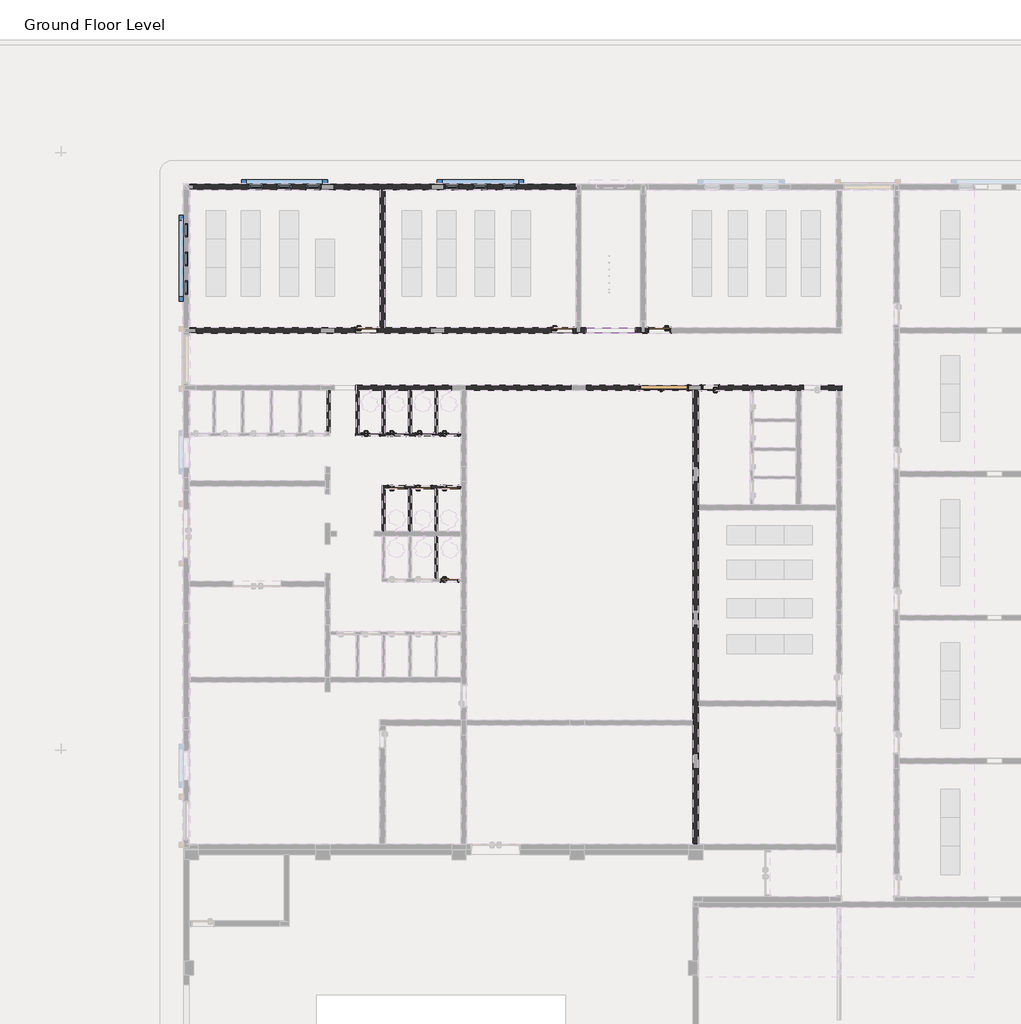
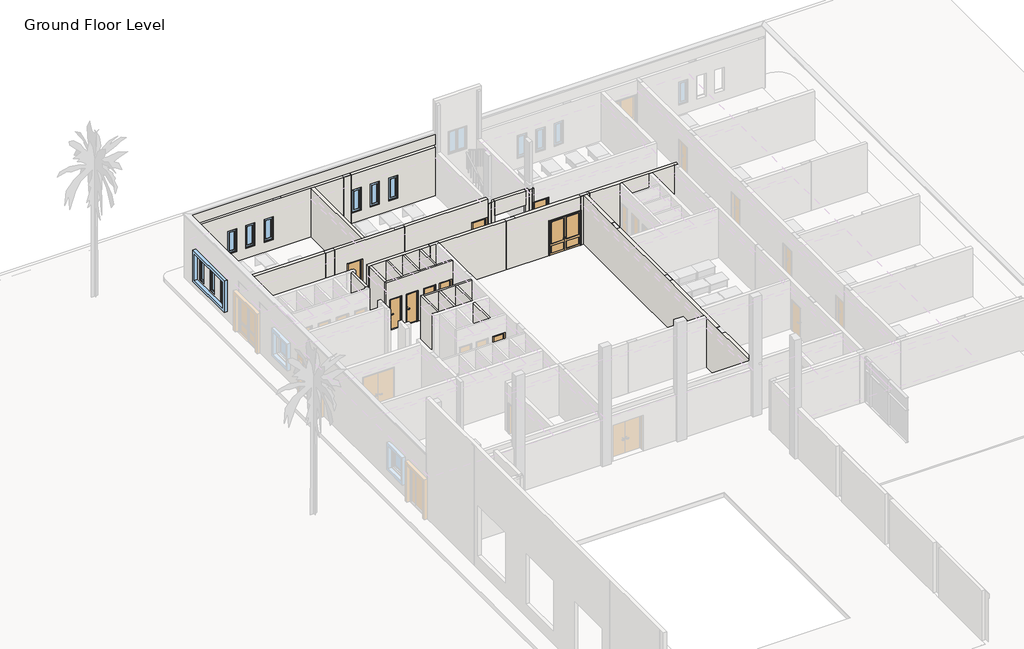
# One storey, part 8 of 23: 19 walls, 13 doors, 12 windows.
"""IFC4 building model written with IfcOpenShell, lengths in millimetres."""

from ifc_helpers import new_model, si_unit, frame, origin, place, context, project, spatial, polyline, outline, extrude, faceted_brep, transform, mapped, element, save
from components import ext_double_out_timber_2lite_nz_2000x_2500_b5d1efe6, int_single_flush_nz_700x_2100_d6161bae, int_single_flush_nz_700x_2100_f912e773, int_single_flush_nz_700x_2100_e1d28701, int_single_flush_nz_900_x_2100_021ef152, int_single_flush_nz_900_x_2100_2a598139, window_batten_type_1_9c5b8c0b, window_batten_type_1_cf321a79, window_batten_type_1_75926c5e, window_single_shutter_w3_b236610e

model = new_model("IFC4")

# Units and contexts
model_context = context("Model", 3, world=origin())
ifc_project = project(units=[si_unit("LENGTHUNIT", "METRE", prefix="MILLI")], contexts=[model_context])

# Site, building, storey
site = spatial("IfcSite", under=ifc_project)
building = spatial("IfcBuilding", under=site)
storey = spatial("IfcBuildingStorey", under=building, Name="Ground Floor Level", Elevation=900.0)

# Doors
placement = place(None, origin())
ext_double_out_timber_2lite_nz_2000x_2500_shape = ext_double_out_timber_2lite_nz_2000x_2500_b5d1efe6(model_context)
element("IfcDoor", 1, ObjectType="Ext Double Out-Timber-2Lite (NZ) : 2000x 2500", at=placement, inside=storey, context=model_context, shape_type="MappedRepresentation", body=[
    mapped(ext_double_out_timber_2lite_nz_2000x_2500_shape, transform((-2125.2327605, 13142.4858361, 900.0), x_axis=(-1.0, 0.0, 0.0), y_axis=(0.0, -1.0, 0.0), z_axis=(0.0, 0.0, 1.0))),
])
int_single_flush_nz_700x_2100_shape = int_single_flush_nz_700x_2100_d6161bae(model_context)
element("IfcDoor", 2, ObjectType="Int Single-Flush (NZ) : 700x 2100", at=placement, inside=storey, context=model_context, shape_type="MappedRepresentation", body=[
    mapped(int_single_flush_nz_700x_2100_shape, transform((-14151.2327605, 11195.2153534, 1000.0), x_axis=(1.0, 0.0, 0.0), y_axis=(0.0, 1.0, 0.0), z_axis=(0.0, 0.0, 1.0))),
])
element("IfcDoor", 3, ObjectType="Int Single-Flush (NZ) : 700x 2100", at=placement, inside=storey, context=model_context, shape_type="MappedRepresentation", body=[
    mapped(int_single_flush_nz_700x_2100_shape, transform((-13072.2327605, 11195.2153534, 1000.0), x_axis=(1.0, 0.0, 0.0), y_axis=(0.0, 1.0, 0.0), z_axis=(0.0, 0.0, 1.0))),
])
element("IfcDoor", 4, ObjectType="Int Single-Flush (NZ) : 700x 2100", at=placement, inside=storey, context=model_context, shape_type="MappedRepresentation", body=[
    mapped(int_single_flush_nz_700x_2100_shape, transform((-11911.2327605, 11195.2153534, 1000.0), x_axis=(1.0, 0.0, 0.0), y_axis=(0.0, 1.0, 0.0), z_axis=(0.0, 0.0, 1.0))),
])
element("IfcDoor", 5, ObjectType="Int Single-Flush (NZ) : 700x 2100", at=placement, inside=storey, context=model_context, shape_type="MappedRepresentation", body=[
    mapped(int_single_flush_nz_700x_2100_shape, transform((-10872.2327605, 11195.2153534, 1000.0), x_axis=(1.0, 0.0, 0.0), y_axis=(0.0, 1.0, 0.0), z_axis=(0.0, 0.0, 1.0))),
])
element("IfcDoor", 6, ObjectType="Int Single-Flush (NZ) : 700x 2100", at=placement, inside=storey, context=model_context, shape_type="MappedRepresentation", body=[
    mapped(int_single_flush_nz_700x_2100_shape, transform((-10872.2327605, 5095.2153534, 1000.0), x_axis=(1.0, 0.0, 0.0), y_axis=(0.0, 1.0, 0.0), z_axis=(0.0, 0.0, 1.0))),
])
int_single_flush_nz_700x_2100_2_shape = int_single_flush_nz_700x_2100_f912e773(model_context)
element("IfcDoor", 7, ObjectType="Int Single-Flush (NZ) : 700x 2100", at=placement, inside=storey, context=model_context, shape_type="MappedRepresentation", body=[
    mapped(int_single_flush_nz_700x_2100_2_shape, transform((-113.2327605, 13145.2153534, 1000.0), x_axis=(-1.0, 0.0, 0.0), y_axis=(0.0, -1.0, 0.0), z_axis=(0.0, 0.0, 1.0))),
])
int_single_flush_nz_700x_2100_3_shape = int_single_flush_nz_700x_2100_e1d28701(model_context)
element("IfcDoor", 8, ObjectType="Int Single-Flush (NZ) : 700x 2100", at=placement, inside=storey, context=model_context, shape_type="MappedRepresentation", body=[
    mapped(int_single_flush_nz_700x_2100_3_shape, transform((-13072.2327605, 8995.2153534, 1000.0), x_axis=(1.0, 0.0, 0.0), y_axis=(0.0, 1.0, 0.0), z_axis=(0.0, 0.0, 1.0))),
])
element("IfcDoor", 9, ObjectType="Int Single-Flush (NZ) : 700x 2100", at=placement, inside=storey, context=model_context, shape_type="MappedRepresentation", body=[
    mapped(int_single_flush_nz_700x_2100_3_shape, transform((-11972.2327605, 8995.2153534, 1000.0), x_axis=(1.0, 0.0, 0.0), y_axis=(0.0, 1.0, 0.0), z_axis=(0.0, 0.0, 1.0))),
])
element("IfcDoor", 10, ObjectType="Int Single-Flush (NZ) : 700x 2100", at=placement, inside=storey, context=model_context, shape_type="MappedRepresentation", body=[
    mapped(int_single_flush_nz_700x_2100_3_shape, transform((-10872.2327605, 8995.2153534, 1000.0), x_axis=(1.0, 0.0, 0.0), y_axis=(0.0, 1.0, 0.0), z_axis=(0.0, 0.0, 1.0))),
])
int_single_flush_nz_900_x_2100_shape = int_single_flush_nz_900_x_2100_021ef152(model_context)
element("IfcDoor", 11, ObjectType="Int Single-Flush (NZ) : 900 x 2100", at=placement, inside=storey, context=model_context, shape_type="MappedRepresentation", body=[
    mapped(int_single_flush_nz_900_x_2100_shape, transform((-14351.2327605, 15545.2153534, 1000.0), x_axis=(1.0, 0.0, 0.0), y_axis=(0.0, 1.0, 0.0), z_axis=(0.0, 0.0, 1.0))),
])
element("IfcDoor", 12, ObjectType="Int Single-Flush (NZ) : 900 x 2100", at=placement, inside=storey, context=model_context, shape_type="MappedRepresentation", body=[
    mapped(int_single_flush_nz_900_x_2100_shape, transform((-6151.2327605, 15545.2153534, 1000.0), x_axis=(1.0, 0.0, 0.0), y_axis=(0.0, 1.0, 0.0), z_axis=(0.0, 0.0, 1.0))),
])
int_single_flush_nz_900_x_2100_2_shape = int_single_flush_nz_900_x_2100_2a598139(model_context)
element("IfcDoor", 13, ObjectType="Int Single-Flush (NZ) : 900 x 2100", at=placement, inside=storey, context=model_context, shape_type="MappedRepresentation", body=[
    mapped(int_single_flush_nz_900_x_2100_2_shape, transform((-2243.2327605, 15545.2153534, 1000.0), x_axis=(-1.0, 0.0, 0.0), y_axis=(0.0, -1.0, 0.0), z_axis=(0.0, 0.0, 1.0))),
])

# Walls
element("IfcWall", 14, ObjectType="Exterior - Blockwork 200 Stairs", at=placement, inside=storey, context=model_context, shape_type="Brep", body=[
    faceted_brep([(-5657.2327605, 15435.2153534, 900.0), (-5227.2327605, 15435.2153534, 900.0), (-5227.2327605, 15435.2153534, 3100.0), (-5227.2327605, 15435.2153534, 4100.0), (-5657.2327605, 15435.2153534, 4100.0), (-5657.2327605, 15435.2153534, 1000.0), (-5657.2327605, 15655.2153534, 900.0), (-5657.2327605, 15655.2153534, 1000.0), (-5657.2327605, 15655.2153534, 4100.0), (-5647.2327605, 15655.2153534, 4100.0), (-5647.2327605, 15655.2153534, 1000.0), (-5647.2327605, 15655.2153534, 900.0), (-5447.2327605, 15655.2153534, 4100.0), (-5437.2327605, 15655.2153534, 4100.0), (-5227.2327605, 15655.2153534, 4100.0), (-5227.2327605, 15655.2153534, 3100.0), (-5227.2327605, 15655.2153534, 1000.0), (-5437.2327605, 15655.2153534, 1000.0), (-5447.2327605, 15655.2153534, 1000.0), (-5657.2327605, 15445.2153534, 900.0), (-5657.2327605, 15645.2153534, 900.0), (-5647.2327605, 15445.2153534, 900.0), (-5447.2327605, 15445.2153534, 900.0), (-5447.2327605, 15645.2153534, 900.0), (-5227.2327605, 15645.2153534, 900.0), (-5227.2327605, 15645.2153534, 1000.0), (-5447.2327605, 15445.2153534, 4100.0), (-5647.2327605, 15445.2153534, 4100.0), (-5447.2327605, 15645.2153534, 1000.0)], [[[0, 1, 2, 3, 4, 5]], [[6, 7, 8, 9, 10, 11]], [[12, 13, 14, 15, 16, 17, 18]], [[1, 0, 19, 20, 6, 11, 21, 22, 23, 24]], [[3, 2, 1, 24, 25, 16, 15, 14]], [[4, 3, 14, 13, 12, 26, 27, 9, 8]], [[22, 26, 12, 18, 28, 23]], [[22, 21, 27, 26]], [[11, 10, 9, 27, 21]], [[4, 8, 7, 6, 20, 19, 0, 5]], [[25, 28, 18, 17, 16]], [[28, 25, 24, 23]]]),
])
element("IfcWall", 15, ObjectType="Exterior - Blockwork 200 Stairs", at=placement, inside=storey, context=model_context, shape_type="SweptSolid", body=[
    extrude(outline(polyline([(-3157.2327605, 15435.2153534), (-5227.2327605, 15435.2153534), (-5227.2327605, 15655.2153534), (-3157.2327605, 15655.2153534), (-3157.2327605, 15435.2153534)])), frame((0.0, 0.0, 3100.0), z_axis=(0.0, 0.0, 1.0), x_axis=(1.0, 0.0, 0.0)), (0.0, 0.0, 1.0), 1000.0),
])
element("IfcWall", 16, ObjectType="Exterior - Blockwork 200 Stairs", at=placement, inside=storey, context=model_context, shape_type="Brep", body=[
    faceted_brep([(-3157.2327605, 15435.2153534, 900.0), (-2637.2327605, 15435.2153534, 900.0), (-2637.2327605, 15435.2153534, 1000.0), (-2637.2327605, 15435.2153534, 3119.0), (-2637.2327605, 15435.2153534, 4100.0), (-3157.2327605, 15435.2153534, 4100.0), (-3157.2327605, 15435.2153534, 3100.0), (-2637.2327605, 15655.2153534, 4100.0), (-2637.2327605, 15655.2153534, 3119.0), (-2637.2327605, 15655.2153534, 900.0), (-2737.2327605, 15655.2153534, 900.0), (-2737.2327605, 15655.2153534, 1000.0), (-2747.2327605, 15655.2153534, 1000.0), (-2747.2327605, 15655.2153534, 4100.0), (-2737.2327605, 15655.2153534, 4100.0), (-3157.2327605, 15655.2153534, 4100.0), (-2957.2327605, 15655.2153534, 4100.0), (-2947.2327605, 15655.2153534, 4100.0), (-2947.2327605, 15655.2153534, 1000.0), (-3157.2327605, 15655.2153534, 1000.0), (-3157.2327605, 15655.2153534, 3100.0), (-3157.2327605, 15645.2153534, 900.0), (-2947.2327605, 15645.2153534, 900.0), (-2947.2327605, 15445.2153534, 900.0), (-2747.2327605, 15445.2153534, 900.0), (-2747.2327605, 15645.2153534, 900.0), (-2737.2327605, 15645.2153534, 900.0), (-2637.2327605, 15645.2153534, 900.0), (-2747.2327605, 15445.2153534, 4100.0), (-2947.2327605, 15445.2153534, 4100.0), (-3157.2327605, 15645.2153534, 1000.0), (-2947.2327605, 15645.2153534, 1000.0), (-2747.2327605, 15645.2153534, 1000.0), (-2737.2327605, 15645.2153534, 1000.0)], [[[0, 1, 2, 3, 4, 5, 6]], [[7, 8, 9, 10, 11, 12, 13, 14]], [[15, 16, 17, 18, 19, 20]], [[1, 0, 21, 22, 23, 24, 25, 26, 10, 9, 27]], [[4, 3, 2, 1, 27, 9, 8, 7]], [[5, 4, 7, 14, 13, 28, 29, 17, 16, 15]], [[0, 6, 5, 15, 20, 19, 30, 21]], [[29, 23, 22, 31, 18, 17]], [[24, 28, 13, 12, 32, 25]], [[28, 24, 23, 29]], [[11, 33, 32, 12]], [[31, 30, 19, 18]], [[26, 33, 11, 10]], [[33, 26, 25, 32]], [[30, 31, 22, 21]]]),
])
element("IfcWall", 17, ObjectType="Exterior - Blockwork 200mm", at=placement, inside=storey, context=model_context, shape_type="Brep", body=[
    faceted_brep([(-5657.2327605, 21435.2153534, 5302.8002678), (-21837.2327605, 21435.2153534, 5302.8002678), (-21837.2327605, 21435.2153534, 4550.0), (-5657.2327605, 21435.2153534, 4550.0), (-5657.2327605, 21435.2153534, 4400.0), (-13637.2327605, 21435.2153534, 4400.0), (-13857.2327605, 21435.2153534, 4400.0), (-21837.2327605, 21435.2153534, 4400.0), (-21837.2327605, 21435.2153534, 1000.0), (-13857.2327605, 21435.2153534, 1000.0), (-13847.2327605, 21435.2153534, 1000.0), (-13847.2327605, 21435.2153534, 900.0), (-13647.2327605, 21435.2153534, 900.0), (-13647.2327605, 21435.2153534, 1000.0), (-13637.2327605, 21435.2153534, 1000.0), (-5657.2327605, 21435.2153534, 1000.0), (-19337.2327605, 21435.2153534, 1700.0), (-19337.2327605, 21435.2153534, 3300.0), (-18737.2327605, 21435.2153534, 3300.0), (-18737.2327605, 21435.2153534, 1700.0), (-18157.2327605, 21435.2153534, 1700.0), (-18157.2327605, 21435.2153534, 3300.0), (-17557.2327605, 21435.2153534, 3300.0), (-17557.2327605, 21435.2153534, 1700.0), (-16937.2327605, 21435.2153534, 1700.0), (-16937.2327605, 21435.2153534, 3300.0), (-16337.2327605, 21435.2153534, 3300.0), (-16337.2327605, 21435.2153534, 1700.0), (-11137.2327605, 21435.2153534, 1700.0), (-11137.2327605, 21435.2153534, 3300.0), (-10537.2327605, 21435.2153534, 3300.0), (-10537.2327605, 21435.2153534, 1700.0), (-9957.2327605, 21435.2153534, 1700.0), (-9957.2327605, 21435.2153534, 3300.0), (-9357.2327605, 21435.2153534, 3300.0), (-9357.2327605, 21435.2153534, 1700.0), (-8737.2327605, 21435.2153534, 1700.0), (-8737.2327605, 21435.2153534, 3300.0), (-8137.2327605, 21435.2153534, 3300.0), (-8137.2327605, 21435.2153534, 1700.0), (-5657.2327605, 21655.2153534, 900.0), (-21837.2327605, 21655.2153534, 900.0), (-21837.2327605, 21655.2153534, 5302.8002678), (-5657.2327605, 21655.2153534, 5302.8002678), (-19337.2327605, 21655.2153534, 3300.0), (-19337.2327605, 21655.2153534, 1700.0), (-18737.2327605, 21655.2153534, 1700.0), (-18737.2327605, 21655.2153534, 3300.0), (-18157.2327605, 21655.2153534, 3300.0), (-18157.2327605, 21655.2153534, 1700.0), (-17557.2327605, 21655.2153534, 1700.0), (-17557.2327605, 21655.2153534, 3300.0), (-16937.2327605, 21655.2153534, 3300.0), (-16937.2327605, 21655.2153534, 1700.0), (-16337.2327605, 21655.2153534, 1700.0), (-16337.2327605, 21655.2153534, 3300.0), (-11137.2327605, 21655.2153534, 3300.0), (-11137.2327605, 21655.2153534, 1700.0), (-10537.2327605, 21655.2153534, 1700.0), (-10537.2327605, 21655.2153534, 3300.0), (-9957.2327605, 21655.2153534, 3300.0), (-9957.2327605, 21655.2153534, 1700.0), (-9357.2327605, 21655.2153534, 1700.0), (-9357.2327605, 21655.2153534, 3300.0), (-8737.2327605, 21655.2153534, 3300.0), (-8737.2327605, 21655.2153534, 1700.0), (-8137.2327605, 21655.2153534, 1700.0), (-8137.2327605, 21655.2153534, 3300.0), (-21837.2327605, 21645.2153534, 900.0), (-21837.2327605, 21645.2153534, 4550.0), (-21837.2327605, 21445.2153534, 4400.0), (-21837.2327605, 21445.2153534, 1000.0), (-15797.2327605, 21645.2153534, 900.0), (-15797.2327605, 21645.2153534, 4400.0), (-11697.2327605, 21645.2153534, 4400.0), (-11697.2327605, 21645.2153534, 900.0), (-11197.2327605, 21645.2153534, 900.0), (-11197.2327605, 21645.2153534, 4400.0), (-5657.2327605, 21645.2153534, 4400.0), (-5657.2327605, 21645.2153534, 4550.0), (-21647.2327605, 21645.2153534, 900.0), (-21647.2327605, 21645.2153534, 4400.0), (-16297.2327605, 21645.2153534, 4400.0), (-16297.2327605, 21645.2153534, 900.0), (-15797.2327605, 21445.2153534, 900.0), (-15797.2327605, 21445.2153534, 1000.0), (-15797.2327605, 21445.2153534, 4400.0), (-16297.2327605, 21445.2153534, 4400.0), (-16297.2327605, 21445.2153534, 1000.0), (-16297.2327605, 21445.2153534, 900.0), (-11197.2327605, 21445.2153534, 900.0), (-11197.2327605, 21445.2153534, 1000.0), (-11197.2327605, 21445.2153534, 4400.0), (-11697.2327605, 21445.2153534, 4400.0), (-11697.2327605, 21445.2153534, 1000.0), (-11697.2327605, 21445.2153534, 900.0), (-21647.2327605, 21445.2153534, 900.0), (-21647.2327605, 21445.2153534, 1000.0), (-21647.2327605, 21445.2153534, 4400.0), (-13647.2327605, 21445.2153534, 1000.0), (-5657.2327605, 21445.2153534, 1000.0), (-13647.2327605, 21445.2153534, 900.0), (-5657.2327605, 21445.2153534, 900.0), (-13847.2327605, 21445.2153534, 1000.0), (-13847.2327605, 21445.2153534, 900.0)], [[[0, 1, 2, 3]], [[4, 5, 6, 7, 8, 9, 10, 11, 12, 13, 14, 15], [16, 17, 18, 19], [20, 21, 22, 23], [24, 25, 26, 27], [28, 29, 30, 31], [32, 33, 34, 35], [36, 37, 38, 39]], [[40, 41, 42, 43], [44, 45, 46, 47], [48, 49, 50, 51], [52, 53, 54, 55], [56, 57, 58, 59], [60, 61, 62, 63], [64, 65, 66, 67]], [[42, 41, 68, 69, 2, 1]], [[7, 70, 71, 8]], [[72, 73, 74, 75, 76, 77, 78, 79, 69, 68, 80, 81, 82, 83]], [[73, 72, 84, 85, 86]], [[87, 86, 85, 88]], [[83, 82, 87, 88, 89]], [[77, 76, 90, 91, 92]], [[93, 92, 91, 94]], [[75, 74, 93, 94, 95]], [[81, 80, 96, 97, 98]], [[70, 98, 97, 71]], [[17, 16, 45, 44]], [[18, 17, 44, 47]], [[19, 18, 47, 46]], [[16, 19, 46, 45]], [[21, 20, 49, 48]], [[22, 21, 48, 51]], [[23, 22, 51, 50]], [[20, 23, 50, 49]], [[25, 24, 53, 52]], [[26, 25, 52, 55]], [[27, 26, 55, 54]], [[24, 27, 54, 53]], [[29, 28, 57, 56]], [[30, 29, 56, 59]], [[31, 30, 59, 58]], [[28, 31, 58, 57]], [[33, 32, 61, 60]], [[34, 33, 60, 63]], [[35, 34, 63, 62]], [[32, 35, 62, 61]], [[37, 36, 65, 64]], [[38, 37, 64, 67]], [[39, 38, 67, 66]], [[36, 39, 66, 65]], [[74, 73, 86, 87, 82, 81, 98, 70, 7, 6, 5, 4, 78, 77, 92, 93]], [[69, 79, 3, 2]], [[99, 94, 91, 100, 15, 14, 13]], [[101, 99, 13, 12]], [[99, 101, 95, 94]], [[100, 91, 90, 102]], [[85, 103, 10, 9, 8, 71, 97, 88]], [[103, 104, 11, 10]], [[104, 103, 85, 84]], [[88, 97, 96, 89]], [[41, 40, 102, 90, 76, 75, 95, 101, 12, 11, 104, 84, 72, 83, 89, 96, 80, 68]], [[40, 43, 0, 3, 79, 78, 4, 15, 100, 102]], [[1, 0, 43, 42]]]),
])
element("IfcWall", 18, ObjectType="Interior - Blockwork 200", at=placement, inside=storey, context=model_context, shape_type="Brep", body=[
    faceted_brep([(-5657.2327605, 15435.2153534, 4400.0), (-21837.2327605, 15435.2153534, 4400.0), (-21837.2327605, 15435.2153534, 1000.0), (-14895.2327605, 15435.2153534, 1000.0), (-14895.2327605, 15435.2153534, 3119.0), (-13957.2327605, 15435.2153534, 3119.0), (-13957.2327605, 15435.2153534, 1000.0), (-6695.2327605, 15435.2153534, 1000.0), (-6695.2327605, 15435.2153534, 3119.0), (-5757.2327605, 15435.2153534, 3119.0), (-5757.2327605, 15435.2153534, 1000.0), (-5657.2327605, 15435.2153534, 1000.0), (-5657.2327605, 15435.2153534, 4100.0), (-21837.2327605, 15655.2153534, 4400.0), (-13857.2327605, 15655.2153534, 4400.0), (-13637.2327605, 15655.2153534, 4400.0), (-5657.2327605, 15655.2153534, 4400.0), (-5657.2327605, 15655.2153534, 4100.0), (-5657.2327605, 15655.2153534, 1000.0), (-5757.2327605, 15655.2153534, 1000.0), (-5757.2327605, 15655.2153534, 3119.0), (-6695.2327605, 15655.2153534, 3119.0), (-6695.2327605, 15655.2153534, 1000.0), (-13637.2327605, 15655.2153534, 1000.0), (-13647.2327605, 15655.2153534, 1000.0), (-13647.2327605, 15655.2153534, 900.0), (-13847.2327605, 15655.2153534, 900.0), (-13847.2327605, 15655.2153534, 1000.0), (-13857.2327605, 15655.2153534, 1000.0), (-13957.2327605, 15655.2153534, 1000.0), (-13957.2327605, 15655.2153534, 3119.0), (-14895.2327605, 15655.2153534, 3119.0), (-14895.2327605, 15655.2153534, 1000.0), (-21837.2327605, 15655.2153534, 1000.0), (-15747.2327605, 15445.2153534, 900.0), (-15747.2327605, 15645.2153534, 900.0), (-13847.2327605, 15645.2153534, 900.0), (-13647.2327605, 15645.2153534, 900.0), (-11747.2327605, 15645.2153534, 900.0), (-11747.2327605, 15445.2153534, 900.0), (-16347.2327605, 15645.2153534, 900.0), (-16347.2327605, 15445.2153534, 900.0), (-21547.2327605, 15445.2153534, 900.0), (-21547.2327605, 15645.2153534, 900.0), (-11147.2327605, 15445.2153534, 900.0), (-11147.2327605, 15645.2153534, 900.0), (-5657.2327605, 15645.2153534, 900.0), (-5657.2327605, 15445.2153534, 900.0), (-21837.2327605, 15445.2153534, 4400.0), (-21837.2327605, 15445.2153534, 1000.0), (-21837.2327605, 15645.2153534, 4400.0), (-21837.2327605, 15645.2153534, 1000.0), (-15747.2327605, 15645.2153534, 4400.0), (-16347.2327605, 15645.2153534, 4400.0), (-16347.2327605, 15645.2153534, 1000.0), (-15747.2327605, 15645.2153534, 1000.0), (-15747.2327605, 15445.2153534, 1000.0), (-15747.2327605, 15445.2153534, 4400.0), (-16347.2327605, 15445.2153534, 4400.0), (-16347.2327605, 15445.2153534, 1000.0), (-11147.2327605, 15645.2153534, 4400.0), (-11747.2327605, 15645.2153534, 4400.0), (-11747.2327605, 15645.2153534, 1000.0), (-11147.2327605, 15645.2153534, 1000.0), (-11147.2327605, 15445.2153534, 1000.0), (-11147.2327605, 15445.2153534, 4400.0), (-11747.2327605, 15445.2153534, 4400.0), (-11747.2327605, 15445.2153534, 1000.0), (-21547.2327605, 15645.2153534, 4400.0), (-21547.2327605, 15645.2153534, 1000.0), (-21547.2327605, 15445.2153534, 1000.0), (-21547.2327605, 15445.2153534, 4400.0), (-5657.2327605, 15445.2153534, 1000.0), (-5657.2327605, 15645.2153534, 1000.0), (-5757.2327605, 15445.2153534, 1000.0), (-6695.2327605, 15445.2153534, 1000.0), (-13957.2327605, 15445.2153534, 1000.0), (-14895.2327605, 15445.2153534, 1000.0), (-5757.2327605, 15645.2153534, 1000.0), (-13647.2327605, 15645.2153534, 1000.0), (-6695.2327605, 15645.2153534, 1000.0), (-14895.2327605, 15645.2153534, 1000.0), (-13847.2327605, 15645.2153534, 1000.0), (-13957.2327605, 15645.2153534, 1000.0)], [[[0, 1, 2, 3, 4, 5, 6, 7, 8, 9, 10, 11, 12]], [[13, 14, 15, 16, 17, 18, 19, 20, 21, 22, 23, 24, 25, 26, 27, 28, 29, 30, 31, 32, 33]], [[34, 35, 36, 26, 25, 37, 38, 39]], [[40, 41, 42, 43]], [[44, 45, 46, 47]], [[1, 48, 49, 2]], [[50, 13, 33, 51]], [[52, 53, 54, 55]], [[35, 34, 56, 57, 52, 55]], [[58, 57, 56, 59]], [[41, 40, 54, 53, 58, 59]], [[60, 61, 62, 63]], [[45, 44, 64, 65, 60, 63]], [[66, 65, 64, 67]], [[39, 38, 62, 61, 66, 67]], [[68, 50, 51, 69]], [[43, 42, 70, 71, 68, 69]], [[48, 71, 70, 49]], [[16, 0, 12, 11, 72, 47, 46, 73, 18, 17]], [[1, 0, 16, 15, 14, 13, 50, 68, 71, 48], [53, 52, 57, 58], [61, 60, 65, 66]], [[11, 10, 74, 72]], [[67, 64, 75, 7, 6, 76]], [[70, 59, 56, 77, 3, 2, 49]], [[44, 47, 72, 74, 75, 64]], [[34, 39, 67, 76, 77, 56]], [[59, 70, 42, 41]], [[19, 18, 73, 78]], [[62, 79, 24, 23, 22, 80, 63]], [[46, 45, 63, 80, 78, 73]], [[37, 79, 62, 38]], [[79, 37, 25, 24]], [[54, 69, 51, 33, 32, 81, 55]], [[82, 83, 29, 28, 27]], [[36, 82, 27, 26]], [[82, 36, 35, 55, 81, 83]], [[69, 54, 40, 43]], [[6, 5, 30, 29, 83, 76]], [[4, 3, 77, 81, 32, 31]], [[77, 76, 83, 81]], [[10, 9, 20, 19, 78, 74]], [[8, 7, 75, 80, 22, 21]], [[75, 74, 78, 80]], [[4, 31, 30, 5]], [[8, 21, 20, 9]]]),
])
element("IfcWall", 19, ObjectType="Interior - Blockwork 200", at=placement, inside=storey, context=model_context, shape_type="SweptSolid", body=[
    extrude(outline(polyline([(4400.0, -13637.2327605), (4400.0, -13857.2327605), (1000.0, -13857.2327605), (1000.0, -13847.2327605), (900.0, -13847.2327605), (900.0, -13647.2327605), (1000.0, -13647.2327605), (1000.0, -13637.2327605), (4400.0, -13637.2327605)])), frame((0.0, 15655.2153534, 0.0), z_axis=(0.0, 1.0, 0.0), x_axis=(0.0, 0.0, 1.0)), (0.0, 0.0, 1.0), 5780.0),
])
element("IfcWall", 20, ObjectType="Interior - Blockwork 200", at=placement, inside=storey, context=model_context, shape_type="Brep", body=[
    faceted_brep([(-14882.6782704, 13035.2153534, 4400.0), (-14882.6782704, 13035.2153534, 900.0), (-14857.2327605, 13035.2153534, 900.0), (-14737.2327605, 13035.2153534, 900.0), (-13757.2327605, 13035.2153534, 900.0), (-13637.2327605, 13035.2153534, 900.0), (-12657.2327605, 13035.2153534, 900.0), (-12537.2327605, 13035.2153534, 900.0), (-11557.2327605, 13035.2153534, 900.0), (-11437.2327605, 13035.2153534, 900.0), (-10447.2327605, 13035.2153534, 900.0), (-10247.2327605, 13035.2153534, 900.0), (-3009.2327605, 13035.2153534, 900.0), (-3009.2327605, 13035.2153534, 3400.0), (-957.2327605, 13035.2153534, 3400.0), (-957.2327605, 13035.2153534, 900.0), (-747.2327605, 13035.2153534, 900.0), (-547.2327605, 13035.2153534, 900.0), (1642.7672395, 13035.2153534, 900.0), (1762.7672395, 13035.2153534, 900.0), (3542.7672395, 13035.2153534, 900.0), (3762.7672395, 13035.2153534, 900.0), (3862.7672395, 13035.2153534, 900.0), (3862.7672395, 13035.2153534, 3019.0), (4600.7672395, 13035.2153534, 3019.0), (4600.7672395, 13035.2153534, 900.0), (5242.7672395, 13035.2153534, 900.0), (5252.7672395, 13035.2153534, 900.0), (5462.7672395, 13035.2153534, 900.0), (5462.7672395, 13035.2153534, 1000.0), (5462.7672395, 13035.2153534, 4400.0), (5452.7672395, 13035.2153534, 4400.0), (5252.7672395, 13035.2153534, 4400.0), (5242.7672395, 13035.2153534, 4400.0), (3762.7672395, 13035.2153534, 4400.0), (3542.7672395, 13035.2153534, 4400.0), (1762.7672395, 13035.2153534, 4400.0), (1642.7672395, 13035.2153534, 4400.0), (-537.2327605, 13035.2153534, 4400.0), (-757.2327605, 13035.2153534, 4400.0), (-10237.2327605, 13035.2153534, 4400.0), (-10457.2327605, 13035.2153534, 4400.0), (-11437.2327605, 13035.2153534, 4400.0), (-11557.2327605, 13035.2153534, 4400.0), (-12537.2327605, 13035.2153534, 4400.0), (-12657.2327605, 13035.2153534, 4400.0), (-13637.2327605, 13035.2153534, 4400.0), (-13757.2327605, 13035.2153534, 4400.0), (-14737.2327605, 13035.2153534, 4400.0), (-14857.2327605, 13035.2153534, 4400.0), (-407.2327605, 13035.2153534, 1000.0), (-407.2327605, 13035.2153534, 3119.0), (330.7672395, 13035.2153534, 3119.0), (330.7672395, 13035.2153534, 1000.0), (-14882.6782704, 13255.2153534, 900.0), (-14882.6782704, 13255.2153534, 4400.0), (5462.7672395, 13255.2153534, 4400.0), (5462.7672395, 13255.2153534, 900.0), (4600.7672395, 13255.2153534, 900.0), (4600.7672395, 13255.2153534, 3019.0), (3862.7672395, 13255.2153534, 3019.0), (3862.7672395, 13255.2153534, 900.0), (-957.2327605, 13255.2153534, 900.0), (-957.2327605, 13255.2153534, 3400.0), (-3009.2327605, 13255.2153534, 3400.0), (-3009.2327605, 13255.2153534, 900.0), (-407.2327605, 13255.2153534, 3119.0), (-407.2327605, 13255.2153534, 1000.0), (330.7672395, 13255.2153534, 1000.0), (330.7672395, 13255.2153534, 3119.0), (-5847.2327605, 13045.2153534, 900.0), (-5247.2327605, 13045.2153534, 900.0), (-5247.2327605, 13245.2153534, 900.0), (-5847.2327605, 13245.2153534, 900.0), (-10847.2327605, 13045.2153534, 900.0), (-10247.2327605, 13045.2153534, 900.0), (-10247.2327605, 13245.2153534, 900.0), (-10847.2327605, 13245.2153534, 900.0), (-947.2327605, 13045.2153534, 900.0), (-347.2327605, 13045.2153534, 900.0), (-347.2327605, 13245.2153534, 900.0), (-947.2327605, 13245.2153534, 900.0), (-347.2327605, 13045.2153534, 4400.0), (-947.2327605, 13045.2153534, 4400.0), (-947.2327605, 13245.2153534, 4400.0), (-347.2327605, 13245.2153534, 4400.0), (-5247.2327605, 13045.2153534, 4400.0), (-5847.2327605, 13045.2153534, 4400.0), (-5847.2327605, 13245.2153534, 4400.0), (-5247.2327605, 13245.2153534, 4400.0), (-10247.2327605, 13045.2153534, 4400.0), (-10847.2327605, 13045.2153534, 4400.0), (-10847.2327605, 13245.2153534, 4400.0), (-10247.2327605, 13245.2153534, 4400.0), (-347.2327605, 13045.2153534, 3119.0), (-407.2327605, 13045.2153534, 3119.0), (-407.2327605, 13045.2153534, 1000.0), (-347.2327605, 13045.2153534, 1000.0), (-347.2327605, 13245.2153534, 1000.0), (-407.2327605, 13245.2153534, 1000.0), (-407.2327605, 13245.2153534, 3119.0), (-347.2327605, 13245.2153534, 3119.0)], [[[0, 1, 2, 3, 4, 5, 6, 7, 8, 9, 10, 11, 12, 13, 14, 15, 16, 17, 18, 19, 20, 21, 22, 23, 24, 25, 26, 27, 28, 29, 30, 31, 32, 33, 34, 35, 36, 37, 38, 39, 40, 41, 42, 43, 44, 45, 46, 47, 48, 49], [50, 51, 52, 53]], [[54, 55, 56, 57, 58, 59, 60, 61, 62, 63, 64, 65], [66, 67, 68, 69]], [[1, 54, 65, 12, 11, 10, 9, 8, 7, 6, 5, 4, 3, 2], [70, 71, 72, 73], [74, 75, 76, 77]], [[57, 28, 27, 26, 25, 58]], [[15, 62, 61, 22, 21, 20, 19, 18, 17, 16], [78, 79, 80, 81]], [[1, 0, 55, 54]], [[30, 29, 28, 57, 56]], [[0, 49, 48, 47, 46, 45, 44, 43, 42, 41, 40, 39, 38, 37, 36, 35, 34, 33, 32, 31, 30, 56, 55], [82, 83, 84, 85], [86, 87, 88, 89], [90, 91, 92, 93]], [[13, 12, 65, 64]], [[15, 14, 63, 62]], [[78, 83, 82, 94, 95, 96, 97, 79]], [[83, 78, 81, 84]], [[84, 81, 80, 98, 99, 100, 101, 85]], [[98, 80, 79, 97]], [[82, 85, 101, 94]], [[70, 87, 86, 71]], [[87, 70, 73, 88]], [[88, 73, 72, 89]], [[89, 72, 71, 86]], [[74, 91, 90, 75]], [[91, 74, 77, 92]], [[92, 77, 76, 93]], [[93, 76, 75, 90]], [[51, 50, 96, 95]], [[67, 66, 100, 99]], [[68, 53, 52, 69]], [[53, 68, 67, 99, 98, 97, 96, 50]], [[63, 14, 13, 64]], [[69, 52, 51, 95, 94, 101, 100, 66]], [[60, 23, 22, 61]], [[23, 60, 59, 24]], [[24, 59, 58, 25]]]),
])
element("IfcWall", 21, ObjectType="Interior - Blockwork 200", at=placement, inside=storey, context=model_context, shape_type="Brep", body=[
    faceted_brep([(-757.2327605, -5944.7846466, 4400.0), (-757.2327605, -964.7846466, 4400.0), (-757.2327605, -744.7846466, 4400.0), (-757.2327605, 13035.2153534, 4400.0), (-757.2327605, 13035.2153534, 1000.0), (-757.2327605, -744.7846466, 1000.0), (-757.2327605, -754.7846466, 1000.0), (-757.2327605, -754.7846466, 900.0), (-757.2327605, -954.7846466, 900.0), (-757.2327605, -954.7846466, 910.0), (-757.2327605, -964.7846466, 910.0), (-757.2327605, -5944.7846466, 910.0), (-537.2327605, 13035.2153534, 4400.0), (-537.2327605, 8255.2153534, 4400.0), (-537.2327605, 8035.2153534, 4400.0), (-537.2327605, 55.2153534, 4400.0), (-537.2327605, -164.7846466, 4400.0), (-537.2327605, -5944.7846466, 4400.0), (-537.2327605, -5944.7846466, 4100.0), (-537.2327605, -5944.7846466, 1000.0), (-537.2327605, -154.7846466, 1000.0), (-537.2327605, -154.7846466, 900.0), (-537.2327605, 45.2153534, 900.0), (-537.2327605, 45.2153534, 1000.0), (-537.2327605, 8035.2153534, 1000.0), (-537.2327605, 8045.2153534, 1000.0), (-537.2327605, 8045.2153534, 900.0), (-537.2327605, 8245.2153534, 900.0), (-537.2327605, 8245.2153534, 1000.0), (-537.2327605, 8255.2153534, 1000.0), (-537.2327605, 13035.2153534, 1000.0), (-747.2327605, -2754.7846466, 900.0), (-547.2327605, -2754.7846466, 900.0), (-547.2327605, -5944.7846466, 900.0), (-747.2327605, -5944.7846466, 900.0), (-547.2327605, -2154.7846466, 900.0), (-747.2327605, -2154.7846466, 900.0), (-747.2327605, -954.7846466, 900.0), (-747.2327605, -754.7846466, 900.0), (-747.2327605, 3245.2153534, 900.0), (-547.2327605, 3245.2153534, 900.0), (-547.2327605, 45.2153534, 900.0), (-547.2327605, -154.7846466, 900.0), (-547.2327605, 3845.2153534, 900.0), (-747.2327605, 3845.2153534, 900.0), (-747.2327605, 9245.2153534, 900.0), (-547.2327605, 9245.2153534, 900.0), (-547.2327605, 8245.2153534, 900.0), (-547.2327605, 8045.2153534, 900.0), (-547.2327605, 9845.2153534, 900.0), (-747.2327605, 9845.2153534, 900.0), (-747.2327605, 13035.2153534, 900.0), (-547.2327605, 13035.2153534, 900.0), (-547.2327605, 13035.2153534, 1000.0), (-747.2327605, 13035.2153534, 1000.0), (-747.2327605, -2154.7846466, 4400.0), (-747.2327605, -2754.7846466, 4400.0), (-747.2327605, -2754.7846466, 910.0), (-747.2327605, -2154.7846466, 910.0), (-547.2327605, -2154.7846466, 1000.0), (-547.2327605, -2154.7846466, 4400.0), (-547.2327605, -2754.7846466, 4400.0), (-547.2327605, -2754.7846466, 1000.0), (-747.2327605, 3845.2153534, 4400.0), (-747.2327605, 3245.2153534, 4400.0), (-747.2327605, 3245.2153534, 1000.0), (-747.2327605, 3845.2153534, 1000.0), (-547.2327605, 3845.2153534, 1000.0), (-547.2327605, 3845.2153534, 4400.0), (-547.2327605, 3245.2153534, 4400.0), (-547.2327605, 3245.2153534, 1000.0), (-747.2327605, 9845.2153534, 4400.0), (-747.2327605, 9245.2153534, 4400.0), (-747.2327605, 9245.2153534, 1000.0), (-747.2327605, 9845.2153534, 1000.0), (-547.2327605, 9845.2153534, 1000.0), (-547.2327605, 9845.2153534, 4400.0), (-547.2327605, 9245.2153534, 4400.0), (-547.2327605, 9245.2153534, 1000.0), (-747.2327605, -5944.7846466, 4400.0), (-547.2327605, 8245.2153534, 1000.0), (-547.2327605, 8045.2153534, 1000.0), (-547.2327605, 45.2153534, 1000.0), (-547.2327605, -154.7846466, 1000.0), (-547.2327605, -5944.7846466, 1000.0), (-747.2327605, -754.7846466, 1000.0), (-747.2327605, -954.7846466, 910.0), (-747.2327605, -5944.7846466, 910.0)], [[[0, 1, 2, 3, 4, 5, 6, 7, 8, 9, 10, 11]], [[12, 13, 14, 15, 16, 17, 18, 19, 20, 21, 22, 23, 24, 25, 26, 27, 28, 29, 30]], [[31, 32, 33, 34]], [[35, 36, 37, 8, 7, 38, 39, 40, 41, 22, 21, 42]], [[43, 44, 45, 46, 47, 27, 26, 48]], [[49, 50, 51, 52]], [[3, 12, 30, 53, 52, 51, 54, 4]], [[55, 56, 57, 58]], [[36, 35, 59, 60, 55, 58]], [[61, 60, 59, 62]], [[32, 31, 57, 56, 61, 62]], [[63, 64, 65, 66]], [[44, 43, 67, 68, 63, 66]], [[69, 68, 67, 70]], [[40, 39, 65, 64, 69, 70]], [[71, 72, 73, 74]], [[50, 49, 75, 76, 71, 74]], [[77, 76, 75, 78]], [[46, 45, 73, 72, 77, 78]], [[3, 2, 1, 0, 79, 17, 16, 15, 14, 13, 12], [56, 55, 60, 61], [64, 63, 68, 69], [72, 71, 76, 77]], [[80, 78, 75, 53, 30, 29, 28]], [[47, 80, 28, 27]], [[80, 47, 46, 78]], [[53, 75, 49, 52]], [[67, 81, 25, 24, 23, 82, 70]], [[41, 82, 23, 22]], [[82, 41, 40, 70]], [[48, 81, 67, 43]], [[81, 48, 26, 25]], [[59, 83, 20, 19, 84, 62]], [[83, 42, 21, 20]], [[42, 83, 59, 35]], [[62, 84, 33, 32]], [[65, 85, 6, 5, 4, 54, 74, 73, 66]], [[66, 73, 45, 44]], [[74, 54, 51, 50]], [[38, 85, 65, 39]], [[85, 38, 7, 6]], [[86, 58, 57, 87, 11, 10, 9]], [[37, 86, 9, 8]], [[86, 37, 36, 58]], [[87, 57, 31, 34]], [[17, 79, 0, 11, 87, 34, 33, 84, 19, 18]]]),
])
element("IfcWall", 22, ObjectType="Interior -Blockwork 100mm", at=placement, inside=storey, context=model_context, shape_type="SweptSolid", body=[
    extrude(outline(polyline([(-11437.2327605, 6935.2153534), (-11437.2327605, 5155.2153534), (-11557.2327605, 5155.2153534), (-11557.2327605, 6935.2153534), (-11437.2327605, 6935.2153534)])), frame((0.0, 0.0, 900.0), z_axis=(0.0, 0.0, 1.0), x_axis=(1.0, 0.0, 0.0)), (0.0, 0.0, 1.0), 3500.0),
])
element("IfcWall", 23, ObjectType="Interior -Blockwork 100mm", at=placement, inside=storey, context=model_context, shape_type="Brep", body=[
    faceted_brep([(-13637.2327605, 7155.2153534, 900.0), (-13637.2327605, 8935.2153534, 900.0), (-13637.2327605, 9055.2153534, 900.0), (-13637.2327605, 9055.2153534, 4400.0), (-13637.2327605, 8935.2153534, 4400.0), (-13637.2327605, 7155.2153534, 4400.0), (-13757.2327605, 7155.2153534, 900.0), (-13757.2327605, 7155.2153534, 4400.0), (-13757.2327605, 9055.2153534, 4400.0), (-13757.2327605, 9055.2153534, 900.0)], [[[0, 1, 2, 3, 4, 5]], [[6, 7, 8, 9]], [[2, 1, 0, 6, 9]], [[0, 5, 7, 6]], [[3, 2, 9, 8]], [[5, 4, 3, 8, 7]]]),
])
element("IfcWall", 24, ObjectType="Interior -Blockwork 100mm", at=placement, inside=storey, context=model_context, shape_type="Brep", body=[
    faceted_brep([(-13637.2327605, 8935.2153534, 900.0), (-12657.2327605, 8935.2153534, 900.0), (-12537.2327605, 8935.2153534, 900.0), (-11557.2327605, 8935.2153534, 900.0), (-11437.2327605, 8935.2153534, 900.0), (-10457.2327605, 8935.2153534, 900.0), (-10457.2327605, 8935.2153534, 4400.0), (-11437.2327605, 8935.2153534, 4400.0), (-11557.2327605, 8935.2153534, 4400.0), (-12537.2327605, 8935.2153534, 4400.0), (-12657.2327605, 8935.2153534, 4400.0), (-13637.2327605, 8935.2153534, 4400.0), (-12778.2327605, 8935.2153534, 3119.0), (-12778.2327605, 8935.2153534, 1000.0), (-13516.2327605, 8935.2153534, 1000.0), (-13516.2327605, 8935.2153534, 3119.0), (-11678.2327605, 8935.2153534, 3119.0), (-11678.2327605, 8935.2153534, 1000.0), (-12416.2327605, 8935.2153534, 1000.0), (-12416.2327605, 8935.2153534, 3119.0), (-10578.2327605, 8935.2153534, 3119.0), (-10578.2327605, 8935.2153534, 1000.0), (-11316.2327605, 8935.2153534, 1000.0), (-11316.2327605, 8935.2153534, 3119.0), (-10457.2327605, 9055.2153534, 900.0), (-13637.2327605, 9055.2153534, 900.0), (-13637.2327605, 9055.2153534, 4400.0), (-10457.2327605, 9055.2153534, 4400.0), (-12778.2327605, 9055.2153534, 1000.0), (-12778.2327605, 9055.2153534, 3119.0), (-13516.2327605, 9055.2153534, 3119.0), (-13516.2327605, 9055.2153534, 1000.0), (-11678.2327605, 9055.2153534, 1000.0), (-11678.2327605, 9055.2153534, 3119.0), (-12416.2327605, 9055.2153534, 3119.0), (-12416.2327605, 9055.2153534, 1000.0), (-10578.2327605, 9055.2153534, 1000.0), (-10578.2327605, 9055.2153534, 3119.0), (-11316.2327605, 9055.2153534, 3119.0), (-11316.2327605, 9055.2153534, 1000.0)], [[[0, 1, 2, 3, 4, 5, 6, 7, 8, 9, 10, 11], [12, 13, 14, 15], [16, 17, 18, 19], [20, 21, 22, 23]], [[24, 25, 26, 27], [28, 29, 30, 31], [32, 33, 34, 35], [36, 37, 38, 39]], [[5, 4, 3, 2, 1, 0, 25, 24]], [[0, 11, 26, 25]], [[6, 5, 24, 27]], [[11, 10, 9, 8, 7, 6, 27, 26]], [[28, 13, 12, 29]], [[29, 12, 15, 30]], [[14, 31, 30, 15]], [[13, 28, 31, 14]], [[32, 17, 16, 33]], [[33, 16, 19, 34]], [[18, 35, 34, 19]], [[17, 32, 35, 18]], [[36, 21, 20, 37]], [[37, 20, 23, 38]], [[38, 23, 22, 39]], [[21, 36, 39, 22]]]),
])
element("IfcWall", 25, ObjectType="Interior -Blockwork 100mm", at=placement, inside=storey, context=model_context, shape_type="SweptSolid", body=[
    extrude(outline(polyline([(-12537.2327605, 8935.2153534), (-12537.2327605, 7155.2153534), (-12657.2327605, 7155.2153534), (-12657.2327605, 8935.2153534), (-12537.2327605, 8935.2153534)])), frame((0.0, 0.0, 900.0), z_axis=(0.0, 0.0, 1.0), x_axis=(1.0, 0.0, 0.0)), (0.0, 0.0, 1.0), 3500.0),
])
element("IfcWall", 26, ObjectType="Interior -Blockwork 100mm", at=placement, inside=storey, context=model_context, shape_type="SweptSolid", body=[
    extrude(outline(polyline([(-11437.2327605, 8935.2153534), (-11437.2327605, 7155.2153534), (-11557.2327605, 7155.2153534), (-11557.2327605, 8935.2153534), (-11437.2327605, 8935.2153534)])), frame((0.0, 0.0, 900.0), z_axis=(0.0, 0.0, 1.0), x_axis=(1.0, 0.0, 0.0)), (0.0, 0.0, 1.0), 3500.0),
])
element("IfcWall", 27, ObjectType="Interior -Blockwork 100mm", at=placement, inside=storey, context=model_context, shape_type="Brep", body=[
    faceted_brep([(-14882.6782704, 11135.2153534, 900.0), (-10457.2327605, 11135.2153534, 900.0), (-10457.2327605, 11135.2153534, 4400.0), (-14882.6782704, 11135.2153534, 4400.0), (-13857.2327605, 11135.2153534, 3119.0), (-13857.2327605, 11135.2153534, 1000.0), (-14595.2327605, 11135.2153534, 1000.0), (-14595.2327605, 11135.2153534, 3119.0), (-12778.2327605, 11135.2153534, 3119.0), (-12778.2327605, 11135.2153534, 1000.0), (-13516.2327605, 11135.2153534, 1000.0), (-13516.2327605, 11135.2153534, 3119.0), (-11617.2327605, 11135.2153534, 3119.0), (-11617.2327605, 11135.2153534, 1000.0), (-12355.2327605, 11135.2153534, 1000.0), (-12355.2327605, 11135.2153534, 3119.0), (-10578.2327605, 11135.2153534, 3119.0), (-10578.2327605, 11135.2153534, 1000.0), (-11316.2327605, 11135.2153534, 1000.0), (-11316.2327605, 11135.2153534, 3119.0), (-10457.2327605, 11255.2153534, 900.0), (-11437.2327605, 11255.2153534, 900.0), (-11557.2327605, 11255.2153534, 900.0), (-12537.2327605, 11255.2153534, 900.0), (-12657.2327605, 11255.2153534, 900.0), (-13637.2327605, 11255.2153534, 900.0), (-13757.2327605, 11255.2153534, 900.0), (-14737.2327605, 11255.2153534, 900.0), (-14857.2327605, 11255.2153534, 900.0), (-14882.6782704, 11255.2153534, 900.0), (-14882.6782704, 11255.2153534, 4400.0), (-14857.2327605, 11255.2153534, 4400.0), (-14737.2327605, 11255.2153534, 4400.0), (-13757.2327605, 11255.2153534, 4400.0), (-13637.2327605, 11255.2153534, 4400.0), (-12657.2327605, 11255.2153534, 4400.0), (-12537.2327605, 11255.2153534, 4400.0), (-11557.2327605, 11255.2153534, 4400.0), (-11437.2327605, 11255.2153534, 4400.0), (-10457.2327605, 11255.2153534, 4400.0), (-13857.2327605, 11255.2153534, 1000.0), (-13857.2327605, 11255.2153534, 3119.0), (-14595.2327605, 11255.2153534, 3119.0), (-14595.2327605, 11255.2153534, 1000.0), (-12778.2327605, 11255.2153534, 1000.0), (-12778.2327605, 11255.2153534, 3119.0), (-13516.2327605, 11255.2153534, 3119.0), (-13516.2327605, 11255.2153534, 1000.0), (-11617.2327605, 11255.2153534, 1000.0), (-11617.2327605, 11255.2153534, 3119.0), (-12355.2327605, 11255.2153534, 3119.0), (-12355.2327605, 11255.2153534, 1000.0), (-10578.2327605, 11255.2153534, 1000.0), (-10578.2327605, 11255.2153534, 3119.0), (-11316.2327605, 11255.2153534, 3119.0), (-11316.2327605, 11255.2153534, 1000.0)], [[[0, 1, 2, 3], [4, 5, 6, 7], [8, 9, 10, 11], [12, 13, 14, 15], [16, 17, 18, 19]], [[20, 21, 22, 23, 24, 25, 26, 27, 28, 29, 30, 31, 32, 33, 34, 35, 36, 37, 38, 39], [40, 41, 42, 43], [44, 45, 46, 47], [48, 49, 50, 51], [52, 53, 54, 55]], [[1, 0, 29, 28, 27, 26, 25, 24, 23, 22, 21, 20]], [[0, 3, 30, 29]], [[2, 1, 20, 39]], [[3, 2, 39, 38, 37, 36, 35, 34, 33, 32, 31, 30]], [[40, 5, 4, 41]], [[41, 4, 7, 42]], [[6, 43, 42, 7]], [[5, 40, 43, 6]], [[44, 9, 8, 45]], [[45, 8, 11, 46]], [[10, 47, 46, 11]], [[9, 44, 47, 10]], [[48, 13, 12, 49]], [[49, 12, 15, 50]], [[14, 51, 50, 15]], [[13, 48, 51, 14]], [[52, 17, 16, 53]], [[53, 16, 19, 54]], [[54, 19, 18, 55]], [[17, 52, 55, 18]]]),
])
element("IfcWall", 28, ObjectType="Interior -Blockwork 100mm", at=placement, inside=storey, context=model_context, shape_type="SweptSolid", body=[
    extrude(outline(polyline([(-11437.2327605, 13035.2153534), (-11437.2327605, 11255.2153534), (-11557.2327605, 11255.2153534), (-11557.2327605, 13035.2153534), (-11437.2327605, 13035.2153534)])), frame((0.0, 0.0, 900.0), z_axis=(0.0, 0.0, 1.0), x_axis=(1.0, 0.0, 0.0)), (0.0, 0.0, 1.0), 3500.0),
])
element("IfcWall", 29, ObjectType="Interior -Blockwork 100mm", at=placement, inside=storey, context=model_context, shape_type="SweptSolid", body=[
    extrude(outline(polyline([(-12537.2327605, 13035.2153534), (-12537.2327605, 11255.2153534), (-12657.2327605, 11255.2153534), (-12657.2327605, 13035.2153534), (-12537.2327605, 13035.2153534)])), frame((0.0, 0.0, 900.0), z_axis=(0.0, 0.0, 1.0), x_axis=(1.0, 0.0, 0.0)), (0.0, 0.0, 1.0), 3500.0),
])
element("IfcWall", 30, ObjectType="Interior -Blockwork 100mm", at=placement, inside=storey, context=model_context, shape_type="SweptSolid", body=[
    extrude(outline(polyline([(-13637.2327605, 13035.2153534), (-13637.2327605, 11255.2153534), (-13757.2327605, 11255.2153534), (-13757.2327605, 13035.2153534), (-13637.2327605, 13035.2153534)])), frame((0.0, 0.0, 900.0), z_axis=(0.0, 0.0, 1.0), x_axis=(1.0, 0.0, 0.0)), (0.0, 0.0, 1.0), 3500.0),
])
element("IfcWall", 31, ObjectType="Interior -Blockwork 100mm", at=placement, inside=storey, context=model_context, shape_type="SweptSolid", body=[
    extrude(outline(polyline([(-14737.2327605, 13035.2153534), (-14737.2327605, 11255.2153534), (-14857.2327605, 11255.2153534), (-14857.2327605, 13035.2153534), (-14737.2327605, 13035.2153534)])), frame((0.0, 0.0, 900.0), z_axis=(0.0, 0.0, 1.0), x_axis=(1.0, 0.0, 0.0)), (0.0, 0.0, 1.0), 3500.0),
])
element("IfcWall", 32, ObjectType="Interior -Blockwork 100mm", at=placement, inside=storey, context=model_context, shape_type="SweptSolid", body=[
    extrude(outline(polyline([(-15937.2327605, 13035.2153534), (-15937.2327605, 11255.2153534), (-15947.2327605, 11255.2153534), (-15947.2327605, 11345.2153534), (-16057.2327605, 11345.2153534), (-16057.2327605, 13035.2153534), (-15937.2327605, 13035.2153534)])), frame((0.0, 0.0, 900.0), z_axis=(0.0, 0.0, 1.0), x_axis=(1.0, 0.0, 0.0)), (0.0, 0.0, 1.0), 3500.0),
])

# Windows
window_batten_type_1_shape = window_batten_type_1_9c5b8c0b(model_context)
element("IfcWindow", 33, ObjectType="Window Batten : Type 1", at=placement, inside=storey, context=model_context, shape_type="MappedRepresentation", body=[
    mapped(window_batten_type_1_shape, transform((-21947.2327605, 18682.2321868, 991.1515798), x_axis=(0.0, -1.0, 0.0), y_axis=(1.0, 0.0, 0.0), z_axis=(0.0, 0.0, 1.0))),
])
window_batten_type_1_2_shape = window_batten_type_1_cf321a79(model_context)
element("IfcWindow", 34, ObjectType="Window Batten : Type 1", at=placement, inside=storey, context=model_context, shape_type="MappedRepresentation", body=[
    mapped(window_batten_type_1_2_shape, transform((-9525.9313263, 21545.2153534, 890.4209743), x_axis=(-1.0, 0.0, 0.0), y_axis=(0.0, -1.0, 0.0), z_axis=(0.0, 0.0, 1.0))),
])
window_batten_type_1_3_shape = window_batten_type_1_75926c5e(model_context)
element("IfcWindow", 35, ObjectType="Window Batten : Type 1", at=placement, inside=storey, context=model_context, shape_type="MappedRepresentation", body=[
    mapped(window_batten_type_1_3_shape, transform((-17723.0827737, 21545.2153534, 890.5040542), x_axis=(-1.0, 0.0, 0.0), y_axis=(0.0, -1.0, 0.0), z_axis=(0.0, 0.0, 1.0))),
])
window_single_shutter_w3_shape = window_single_shutter_w3_b236610e(model_context)
element("IfcWindow", 36, ObjectType="Window- Single Shutter : W3", at=placement, inside=storey, context=model_context, shape_type="MappedRepresentation", body=[
    mapped(window_single_shutter_w3_shape, transform((-21942.2327605, 19735.2153534, 900.0), x_axis=(0.0, 1.0, 0.0), y_axis=(-1.0, 0.0, 0.0), z_axis=(0.0, 0.0, 1.0))),
])
element("IfcWindow", 37, ObjectType="Window- Single Shutter : W3", at=placement, inside=storey, context=model_context, shape_type="MappedRepresentation", body=[
    mapped(window_single_shutter_w3_shape, transform((-21942.2327605, 18535.2153534, 900.0), x_axis=(0.0, 1.0, 0.0), y_axis=(-1.0, 0.0, 0.0), z_axis=(0.0, 0.0, 1.0))),
])
element("IfcWindow", 38, ObjectType="Window- Single Shutter : W3", at=placement, inside=storey, context=model_context, shape_type="MappedRepresentation", body=[
    mapped(window_single_shutter_w3_shape, transform((-21942.2327605, 17335.2153534, 900.0), x_axis=(0.0, 1.0, 0.0), y_axis=(-1.0, 0.0, 0.0), z_axis=(0.0, 0.0, 1.0))),
])
element("IfcWindow", 39, ObjectType="Window- Single Shutter : W3", at=placement, inside=storey, context=model_context, shape_type="MappedRepresentation", body=[
    mapped(window_single_shutter_w3_shape, transform((-19037.2327605, 21540.2153534, 900.0), x_axis=(1.0, 0.0, 0.0), y_axis=(0.0, 1.0, 0.0), z_axis=(0.0, 0.0, 1.0))),
])
element("IfcWindow", 40, ObjectType="Window- Single Shutter : W3", at=placement, inside=storey, context=model_context, shape_type="MappedRepresentation", body=[
    mapped(window_single_shutter_w3_shape, transform((-17857.2327605, 21540.2153534, 900.0), x_axis=(1.0, 0.0, 0.0), y_axis=(0.0, 1.0, 0.0), z_axis=(0.0, 0.0, 1.0))),
])
element("IfcWindow", 41, ObjectType="Window- Single Shutter : W3", at=placement, inside=storey, context=model_context, shape_type="MappedRepresentation", body=[
    mapped(window_single_shutter_w3_shape, transform((-16637.2327605, 21540.2153534, 900.0), x_axis=(1.0, 0.0, 0.0), y_axis=(0.0, 1.0, 0.0), z_axis=(0.0, 0.0, 1.0))),
])
element("IfcWindow", 42, ObjectType="Window- Single Shutter : W3", at=placement, inside=storey, context=model_context, shape_type="MappedRepresentation", body=[
    mapped(window_single_shutter_w3_shape, transform((-10837.2327605, 21540.2153534, 900.0), x_axis=(1.0, 0.0, 0.0), y_axis=(0.0, 1.0, 0.0), z_axis=(0.0, 0.0, 1.0))),
])
element("IfcWindow", 43, ObjectType="Window- Single Shutter : W3", at=placement, inside=storey, context=model_context, shape_type="MappedRepresentation", body=[
    mapped(window_single_shutter_w3_shape, transform((-9657.2327605, 21540.2153534, 900.0), x_axis=(1.0, 0.0, 0.0), y_axis=(0.0, 1.0, 0.0), z_axis=(0.0, 0.0, 1.0))),
])
element("IfcWindow", 44, ObjectType="Window- Single Shutter : W3", at=placement, inside=storey, context=model_context, shape_type="MappedRepresentation", body=[
    mapped(window_single_shutter_w3_shape, transform((-8437.2327605, 21540.2153534, 900.0), x_axis=(1.0, 0.0, 0.0), y_axis=(0.0, 1.0, 0.0), z_axis=(0.0, 0.0, 1.0))),
])

save(model, "model.ifc")
